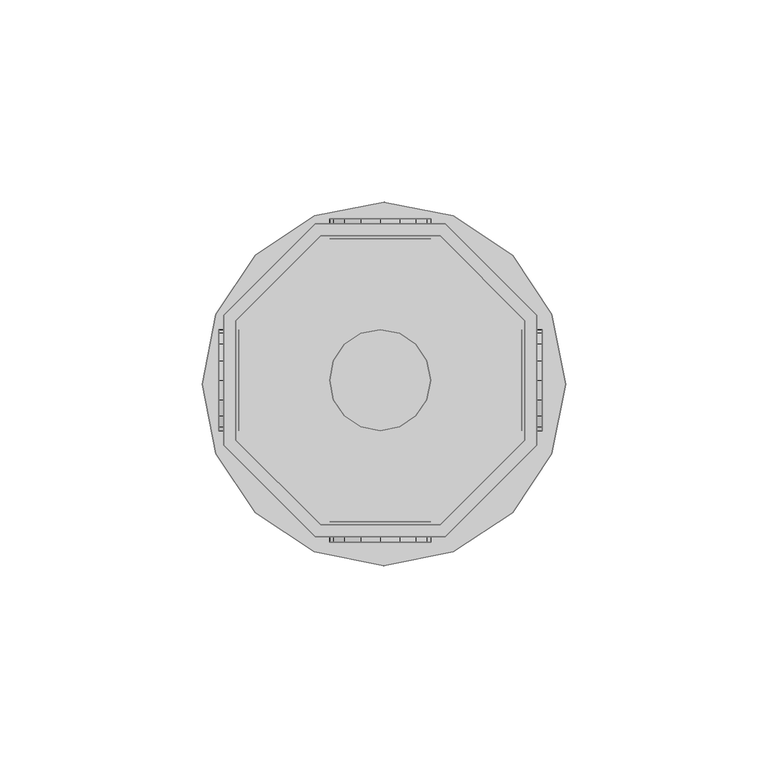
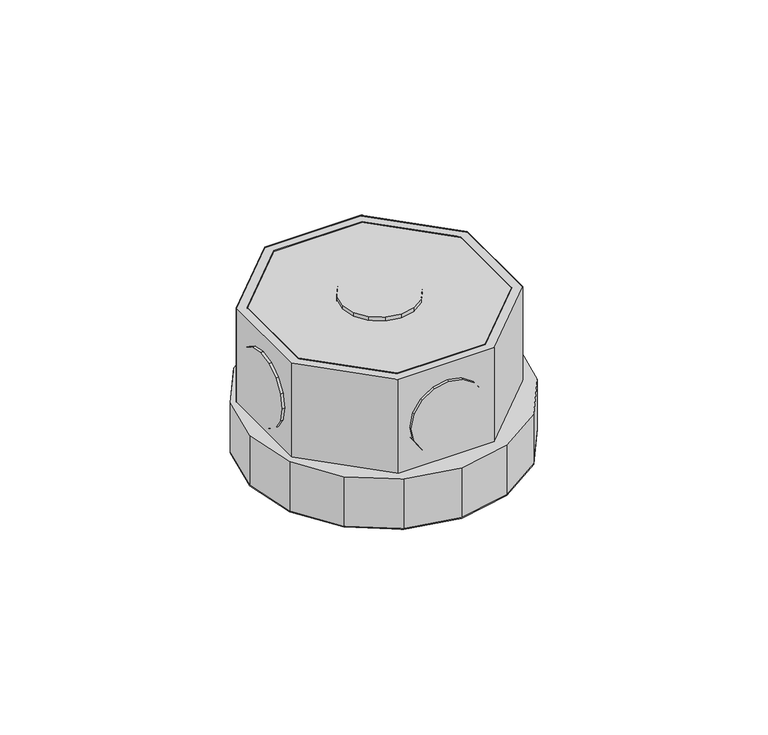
"""IFC4 building model written with IfcOpenShell, lengths in millimetres: light fixture geometry,  213824 :  213824."""

from ifc_helpers import new_model, si_unit, origin, place, context, project, spatial, triangles, source, transform, mapped, element, save


def light_fixture_e9a86b62(model_context):
    return source(origin(), model_context, "Body", "Tessellation", [
        triangles([(9614.9997391, 23945.4988586, 2924.5999741), (9585.3998016, 23945.4988586, 2975.400071), (9585.3998016, 23945.4988586, 2924.5999741), (9614.9997391, 23945.4988586, 2975.400071), (9616.2002472, 23871.0010803, 2924.5999741), (9584.099881, 23871.0010803, 2975.400071), (9584.099881, 23871.0010803, 2924.5999741), (9616.2002472, 23871.0010803, 2975.400071), (9564.3999207, 23924.5001404, 2975.400071), (9564.3999207, 23924.5001404, 2924.5999741), (9638.9000244, 23893.6996948, 2924.5999741), (9638.9000244, 23893.6996948, 2975.400071), (9564.3999207, 23894.8996216, 2975.400071), (9564.3999207, 23894.8996216, 2924.5999741), (9638.9000244, 23925.800061, 2924.5999741), (9638.9000244, 23925.800061, 2975.400071), (9585.3998016, 23874.0008972, 2975.400071), (9585.3998016, 23874.0008972, 2924.5999741), (9616.2002472, 23948.501001, 2924.5999741), (9616.2002472, 23948.501001, 2975.400071), (9614.9997391, 23874.0008972, 2924.5999741), (9614.9997391, 23874.0008972, 2975.400071), (9584.099881, 23948.501001, 2975.400071), (9584.099881, 23948.501001, 2924.5999741), (9635.9002075, 23894.8996216, 2924.5999741), (9635.9002075, 23894.8996216, 2975.400071), (9561.4001038, 23925.800061, 2975.400071), (9561.4001038, 23925.800061, 2924.5999741), (9561.4001038, 23893.6996948, 2975.400071), (9635.9002075, 23924.5001404, 2975.400071), (9635.9002075, 23924.5001404, 2924.5999741), (9561.4001038, 23893.6996948, 2924.5999741), (9564.3999207, 23894.8996216, 2972.3999634), (9585.3998016, 23874.0008972, 2972.3999634), (9614.9997391, 23874.0008972, 2972.3999634), (9635.9002075, 23894.8996216, 2972.3999634), (9635.9002075, 23924.5001404, 2972.3999634), (9614.9997391, 23945.4988586, 2972.3999634), (9585.3998016, 23945.4988586, 2972.3999634), (9564.3999207, 23924.5001404, 2972.3999634), (9561.4001038, 23925.800061, 2942.4000504), (9584.099881, 23948.501001, 2942.4000504), (9616.2002472, 23948.501001, 2942.4000504), (9638.9000244, 23925.800061, 2942.4000504), (9638.9000244, 23893.6996948, 2942.4000504), (9616.2002472, 23871.0010803, 2942.4000504), (9584.099881, 23871.0010803, 2942.4000504), (9561.4001038, 23893.6996948, 2942.4000504), (9583.7998993, 23867.2989807, 2942.4000504), (9559.5002197, 23891.599823, 2942.4000504), (9569.200209, 23877.0007141, 2942.4000504), (9556.0998459, 23908.8010986, 2942.4000504), (9559.5002197, 23926.1000427, 2942.4000504), (9569.200209, 23940.6991516, 2942.4000504), (9583.7998993, 23950.400885, 2942.4000504), (9601.1000061, 23953.8006775, 2942.4000504), (9618.300119, 23950.400885, 2942.4000504), (9642.5997986, 23926.1000427, 2942.4000504), (9632.8998093, 23940.6991516, 2942.4000504), (9601.1000061, 23863.7991943, 2942.4000504), (9618.300119, 23867.2989807, 2942.4000504), (9632.8998093, 23877.0007141, 2942.4000504), (9642.5997986, 23891.599823, 2942.4000504), (9646.1001663, 23908.8010986, 2942.4000504), (9559.5002197, 23891.599823, 2924.5999741), (9583.7998993, 23867.2989807, 2924.5999741), (9569.200209, 23877.0007141, 2924.5999741), (9556.0998459, 23908.8010986, 2924.5999741), (9559.5002197, 23926.1000427, 2924.5999741), (9569.200209, 23940.6991516, 2924.5999741), (9583.7998993, 23950.400885, 2924.5999741), (9601.1000061, 23953.8006775, 2924.5999741), (9618.300119, 23950.400885, 2924.5999741), (9642.5997986, 23926.1000427, 2924.5999741), (9632.8998093, 23940.6991516, 2924.5999741), (9601.1000061, 23863.7991943, 2924.5999741), (9618.300119, 23867.2989807, 2924.5999741), (9632.8998093, 23877.0007141, 2924.5999741), (9642.5997986, 23891.599823, 2924.5999741), (9646.1001663, 23908.8010986, 2924.5999741), (9588.6001877, 23949.7009277, 2952.6000092), (9595.3997726, 23949.7009277, 2945.9001274), (9591.3000229, 23949.7009277, 2948.5999626), (9587.7002426, 23949.7009277, 2957.4000069), (9600.200061, 23949.7009277, 2944.8998978), (9588.6001877, 23949.7009277, 2962.2000046), (9604.9997681, 23949.7009277, 2945.9001274), (9591.3000229, 23949.7009277, 2966.2000511), (9609.0001053, 23949.7009277, 2948.5999626), (9595.3997726, 23949.7009277, 2968.8998863), (9611.6999405, 23949.7009277, 2952.6000092), (9600.200061, 23949.7009277, 2969.900116), (9612.6998795, 23949.7009277, 2957.4000069), (9604.9997681, 23949.7009277, 2968.8998863), (9611.6999405, 23949.7009277, 2962.2000046), (9609.0001053, 23949.7009277, 2966.2000511), (9595.3997726, 23944.6989075, 2945.9001274), (9588.6001877, 23944.6989075, 2952.6000092), (9591.3000229, 23944.6989075, 2948.5999626), (9600.200061, 23944.6989075, 2944.8998978), (9587.7002426, 23944.6989075, 2957.4000069), (9604.9997681, 23944.6989075, 2945.9001274), (9588.6001877, 23944.6989075, 2962.2000046), (9609.0001053, 23944.6989075, 2948.5999626), (9591.3000229, 23944.6989075, 2966.2000511), (9595.3997726, 23944.6989075, 2968.8998863), (9611.6999405, 23944.6989075, 2952.6000092), (9600.200061, 23944.6989075, 2969.900116), (9612.6998795, 23944.6989075, 2957.4000069), (9604.9997681, 23944.6989075, 2968.8998863), (9611.6999405, 23944.6989075, 2962.2000046), (9609.0001053, 23944.6989075, 2966.2000511), (9588.6001877, 23874.7008545, 2952.6000092), (9595.3997726, 23874.7008545, 2945.9001274), (9591.3000229, 23874.7008545, 2948.5999626), (9587.7002426, 23874.7008545, 2957.4000069), (9600.200061, 23874.7008545, 2944.8998978), (9588.6001877, 23874.7008545, 2962.2000046), (9604.9997681, 23874.7008545, 2945.9001274), (9591.3000229, 23874.7008545, 2966.2000511), (9609.0001053, 23874.7008545, 2948.5999626), (9595.3997726, 23874.7008545, 2968.8998863), (9611.6999405, 23874.7008545, 2952.6000092), (9600.200061, 23874.7008545, 2969.900116), (9612.6998795, 23874.7008545, 2957.4000069), (9604.9997681, 23874.7008545, 2968.8998863), (9611.6999405, 23874.7008545, 2962.2000046), (9609.0001053, 23874.7008545, 2966.2000511), (9595.3997726, 23869.7011597, 2945.9001274), (9588.6001877, 23869.7011597, 2952.6000092), (9591.3000229, 23869.7011597, 2948.5999626), (9600.200061, 23869.7011597, 2944.8998978), (9587.7002426, 23869.7011597, 2957.4000069), (9604.9997681, 23869.7011597, 2945.9001274), (9588.6001877, 23869.7011597, 2962.2000046), (9609.0001053, 23869.7011597, 2948.5999626), (9591.3000229, 23869.7011597, 2966.2000511), (9595.3997726, 23869.7011597, 2968.8998863), (9611.6999405, 23869.7011597, 2952.6000092), (9600.200061, 23869.7011597, 2969.900116), (9612.6998795, 23869.7011597, 2957.4000069), (9604.9997681, 23869.7011597, 2968.8998863), (9611.6999405, 23869.7011597, 2962.2000046), (9609.0001053, 23869.7011597, 2966.2000511), (9565.1998718, 23904.8990112, 2945.9001274), (9565.1998718, 23898.1994202, 2952.6000092), (9565.1998718, 23900.8992554, 2948.5999626), (9565.1998718, 23909.7010437, 2944.8998978), (9565.1998718, 23897.1994812, 2957.4000069), (9565.1998718, 23914.5007507, 2945.9001274), (9565.1998718, 23898.1994202, 2962.2000046), (9565.1998718, 23918.6005005, 2948.5999626), (9565.1998718, 23900.8992554, 2966.2000511), (9565.1998718, 23904.8990112, 2968.8998863), (9565.1998718, 23921.3003357, 2952.6000092), (9565.1998718, 23909.7010437, 2969.900116), (9565.1998718, 23922.2002808, 2957.4000069), (9565.1998718, 23914.5007507, 2968.8998863), (9565.1998718, 23921.3003357, 2962.2000046), (9565.1998718, 23918.6005005, 2966.2000511), (9560.200177, 23898.1994202, 2952.6000092), (9560.200177, 23904.8990112, 2945.9001274), (9560.200177, 23900.8992554, 2948.5999626), (9560.200177, 23897.1994812, 2957.4000069), (9560.200177, 23909.7010437, 2944.8998978), (9560.200177, 23898.1994202, 2962.2000046), (9560.200177, 23914.5007507, 2945.9001274), (9560.200177, 23900.8992554, 2966.2000511), (9560.200177, 23918.6005005, 2948.5999626), (9560.200177, 23904.8990112, 2968.8998863), (9560.200177, 23921.3003357, 2952.6000092), (9560.200177, 23909.7010437, 2969.900116), (9560.200177, 23922.2002808, 2957.4000069), (9560.200177, 23914.5007507, 2968.8998863), (9560.200177, 23921.3003357, 2962.2000046), (9560.200177, 23918.6005005, 2966.2000511), (9640.1999451, 23904.8990112, 2945.9001274), (9640.1999451, 23898.1994202, 2952.6000092), (9640.1999451, 23900.8992554, 2948.5999626), (9640.1999451, 23909.7010437, 2944.8998978), (9640.1999451, 23897.1994812, 2957.4000069), (9640.1999451, 23914.5007507, 2945.9001274), (9640.1999451, 23898.1994202, 2962.2000046), (9640.1999451, 23918.6005005, 2948.5999626), (9640.1999451, 23900.8992554, 2966.2000511), (9640.1999451, 23904.8990112, 2968.8998863), (9640.1999451, 23921.3003357, 2952.6000092), (9640.1999451, 23909.7010437, 2969.900116), (9640.1999451, 23922.2002808, 2957.4000069), (9640.1999451, 23914.5007507, 2968.8998863), (9640.1999451, 23921.3003357, 2962.2000046), (9640.1999451, 23918.6005005, 2966.2000511), (9635.2002502, 23898.1994202, 2952.6000092), (9635.2002502, 23904.8990112, 2945.9001274), (9635.2002502, 23900.8992554, 2948.5999626), (9635.2002502, 23897.1994812, 2957.4000069), (9635.2002502, 23909.7010437, 2944.8998978), (9635.2002502, 23898.1994202, 2962.2000046), (9635.2002502, 23914.5007507, 2945.9001274), (9635.2002502, 23900.8992554, 2966.2000511), (9635.2002502, 23918.6005005, 2948.5999626), (9635.2002502, 23904.8990112, 2968.8998863), (9635.2002502, 23921.3003357, 2952.6000092), (9635.2002502, 23909.7010437, 2969.900116), (9635.2002502, 23922.2002808, 2957.4000069), (9635.2002502, 23914.5007507, 2968.8998863), (9635.2002502, 23921.3003357, 2962.2000046), (9635.2002502, 23918.6005005, 2966.2000511), (9595.3997726, 23898.1994202, 2976.9999733), (9588.6001877, 23904.8990112, 2976.9999733), (9591.3000229, 23900.8992554, 2976.9999733), (9587.7002426, 23909.7010437, 2976.9999733), (9600.200061, 23897.1994812, 2976.9999733), (9588.6001877, 23914.5007507, 2976.9999733), (9604.9997681, 23898.1994202, 2976.9999733), (9591.3000229, 23918.6005005, 2976.9999733), (9609.0001053, 23900.8992554, 2976.9999733), (9595.3997726, 23921.3003357, 2976.9999733), (9611.6999405, 23904.8990112, 2976.9999733), (9600.200061, 23922.2002808, 2976.9999733), (9612.6998795, 23909.7010437, 2976.9999733), (9604.9997681, 23921.3003357, 2976.9999733), (9611.6999405, 23914.5007507, 2976.9999733), (9609.0001053, 23918.6005005, 2976.9999733), (9588.6001877, 23904.8990112, 2971.9999878), (9595.3997726, 23898.1994202, 2971.9999878), (9591.3000229, 23900.8992554, 2971.9999878), (9587.7002426, 23909.7010437, 2971.9999878), (9600.200061, 23897.1994812, 2971.9999878), (9588.6001877, 23914.5007507, 2971.9999878), (9604.9997681, 23898.1994202, 2971.9999878), (9591.3000229, 23918.6005005, 2971.9999878), (9609.0001053, 23900.8992554, 2971.9999878), (9595.3997726, 23921.3003357, 2971.9999878), (9611.6999405, 23904.8990112, 2971.9999878), (9600.200061, 23922.2002808, 2971.9999878), (9612.6998795, 23909.7010437, 2971.9999878), (9604.9997681, 23921.3003357, 2971.9999878), (9611.6999405, 23914.5007507, 2971.9999878), (9609.0001053, 23918.6005005, 2971.9999878)], [[1, 2, 3], [2, 1, 4], [5, 6, 7], [6, 5, 8], [3, 9, 10], [9, 3, 2], [11, 8, 5], [8, 11, 12], [10, 13, 14], [13, 10, 9], [15, 12, 11], [12, 15, 16], [14, 17, 18], [17, 14, 13], [19, 16, 15], [16, 19, 20], [17, 21, 18], [21, 17, 22], [23, 19, 24], [19, 23, 20], [22, 25, 21], [25, 22, 26], [27, 24, 28], [24, 27, 23], [6, 13, 29], [29, 13, 27], [27, 13, 9], [27, 9, 23], [23, 9, 2], [23, 2, 4], [23, 4, 20], [20, 4, 30], [8, 17, 6], [6, 17, 13], [17, 8, 22], [12, 22, 8], [22, 12, 26], [30, 26, 12], [16, 30, 12], [20, 30, 16], [30, 1, 31], [1, 30, 4], [6, 32, 7], [32, 6, 29], [32, 14, 7], [28, 14, 32], [14, 28, 10], [24, 10, 28], [10, 24, 3], [1, 3, 24], [19, 1, 24], [31, 1, 19], [7, 18, 5], [14, 18, 7], [5, 18, 21], [5, 21, 11], [11, 21, 25], [11, 25, 31], [11, 31, 15], [15, 31, 19], [26, 31, 25], [31, 26, 30], [29, 28, 32], [28, 29, 27], [17, 33, 34], [33, 17, 13], [35, 17, 34], [17, 35, 22], [36, 22, 35], [22, 36, 26], [37, 26, 36], [26, 37, 30], [38, 30, 37], [30, 38, 4], [2, 38, 39], [38, 2, 4], [17, 9, 13], [9, 17, 22], [9, 22, 2], [2, 22, 26], [2, 26, 4], [4, 26, 30], [13, 40, 33], [40, 13, 9], [40, 34, 33], [35, 34, 40], [35, 40, 39], [35, 39, 36], [36, 39, 38], [36, 38, 37], [9, 39, 40], [39, 9, 2], [24, 41, 28], [41, 24, 42], [19, 42, 24], [42, 19, 43], [44, 19, 15], [19, 44, 43], [45, 15, 11], [15, 45, 44], [46, 11, 5], [11, 46, 45], [47, 5, 7], [5, 47, 46], [32, 47, 7], [47, 32, 48], [28, 48, 32], [48, 28, 41], [49, 50, 51], [48, 50, 49], [50, 48, 52], [41, 52, 48], [52, 41, 53], [53, 41, 54], [42, 54, 41], [54, 42, 55], [55, 42, 43], [55, 43, 56], [56, 43, 57], [57, 43, 44], [57, 44, 58], [57, 58, 59], [47, 49, 60], [49, 47, 48], [47, 60, 46], [61, 46, 60], [46, 61, 62], [46, 62, 45], [45, 62, 63], [44, 45, 63], [44, 63, 64], [44, 64, 58], [65, 66, 67], [66, 65, 32], [68, 32, 65], [32, 68, 28], [28, 68, 69], [70, 28, 69], [28, 70, 24], [71, 24, 70], [19, 24, 71], [19, 71, 72], [73, 19, 72], [19, 73, 15], [74, 15, 73], [74, 73, 75], [76, 66, 7], [32, 7, 66], [5, 76, 7], [76, 5, 77], [77, 5, 78], [11, 78, 5], [78, 11, 79], [79, 11, 15], [79, 15, 80], [80, 15, 74], [57, 75, 73], [75, 57, 59], [56, 73, 72], [73, 56, 57], [55, 72, 71], [72, 55, 56], [54, 71, 70], [71, 54, 55], [53, 70, 69], [70, 53, 54], [52, 69, 68], [69, 52, 53], [50, 68, 65], [68, 50, 52], [51, 65, 67], [65, 51, 50], [66, 51, 67], [51, 66, 49], [76, 49, 66], [49, 76, 60], [77, 60, 76], [60, 77, 61], [78, 61, 77], [61, 78, 62], [79, 62, 78], [62, 79, 63], [80, 63, 79], [63, 80, 64], [75, 58, 74], [58, 75, 59], [74, 64, 80], [64, 74, 58], [81, 82, 83], [82, 81, 84], [85, 82, 84], [85, 84, 86], [87, 85, 86], [87, 86, 88], [87, 88, 89], [89, 88, 90], [89, 90, 91], [91, 90, 92], [91, 92, 93], [93, 92, 94], [93, 94, 95], [95, 94, 96], [97, 98, 99], [98, 97, 100], [101, 98, 100], [101, 100, 102], [103, 101, 102], [103, 102, 104], [103, 104, 105], [105, 104, 106], [106, 104, 107], [106, 107, 108], [108, 107, 109], [108, 109, 110], [110, 109, 111], [110, 111, 112], [87, 104, 102], [104, 87, 89], [85, 102, 100], [102, 85, 87], [82, 100, 97], [100, 82, 85], [83, 97, 99], [97, 83, 82], [98, 83, 99], [83, 98, 81], [101, 81, 98], [81, 101, 84], [103, 84, 101], [84, 103, 86], [105, 86, 103], [86, 105, 88], [106, 88, 105], [88, 106, 90], [108, 90, 106], [90, 108, 92], [110, 92, 108], [92, 110, 94], [112, 94, 110], [94, 112, 96], [95, 112, 111], [112, 95, 96], [93, 111, 109], [111, 93, 95], [89, 107, 104], [107, 89, 91], [91, 109, 107], [109, 91, 93], [113, 114, 115], [114, 113, 116], [117, 114, 116], [117, 116, 118], [119, 117, 118], [119, 118, 120], [119, 120, 121], [121, 120, 122], [121, 122, 123], [123, 122, 124], [123, 124, 125], [125, 124, 126], [125, 126, 127], [127, 126, 128], [129, 130, 131], [130, 129, 132], [133, 130, 132], [133, 132, 134], [135, 133, 134], [135, 134, 136], [135, 136, 137], [137, 136, 138], [138, 136, 139], [138, 139, 140], [140, 139, 141], [140, 141, 142], [142, 141, 143], [142, 143, 144], [119, 136, 134], [136, 119, 121], [117, 134, 132], [134, 117, 119], [114, 132, 129], [132, 114, 117], [115, 129, 131], [129, 115, 114], [130, 115, 131], [115, 130, 113], [133, 113, 130], [113, 133, 116], [135, 116, 133], [116, 135, 118], [137, 118, 135], [118, 137, 120], [138, 120, 137], [120, 138, 122], [140, 122, 138], [122, 140, 124], [142, 124, 140], [124, 142, 126], [144, 126, 142], [126, 144, 128], [127, 144, 143], [144, 127, 128], [125, 143, 141], [143, 125, 127], [121, 139, 136], [139, 121, 123], [123, 141, 139], [141, 123, 125], [145, 146, 147], [146, 145, 148], [149, 146, 148], [149, 148, 150], [151, 149, 150], [151, 150, 152], [151, 152, 153], [153, 152, 154], [154, 152, 155], [154, 155, 156], [156, 155, 157], [156, 157, 158], [158, 157, 159], [158, 159, 160], [161, 162, 163], [162, 161, 164], [165, 162, 164], [165, 164, 166], [167, 165, 166], [167, 166, 168], [169, 167, 168], [169, 168, 170], [169, 170, 171], [171, 170, 172], [171, 172, 173], [173, 172, 174], [173, 174, 175], [175, 174, 176], [158, 176, 174], [176, 158, 160], [156, 174, 172], [174, 156, 158], [154, 172, 170], [172, 154, 156], [153, 170, 168], [170, 153, 154], [151, 168, 166], [168, 151, 153], [149, 166, 164], [166, 149, 151], [146, 164, 161], [164, 146, 149], [147, 161, 163], [161, 147, 146], [162, 147, 163], [147, 162, 145], [165, 145, 162], [145, 165, 148], [167, 148, 165], [148, 167, 150], [169, 150, 167], [150, 169, 152], [171, 152, 169], [152, 171, 155], [173, 155, 171], [155, 173, 157], [176, 159, 175], [159, 176, 160], [175, 157, 173], [157, 175, 159], [177, 178, 179], [178, 177, 180], [181, 178, 180], [181, 180, 182], [183, 181, 182], [183, 182, 184], [183, 184, 185], [185, 184, 186], [186, 184, 187], [186, 187, 188], [188, 187, 189], [188, 189, 190], [190, 189, 191], [190, 191, 192], [193, 194, 195], [194, 193, 196], [197, 194, 196], [197, 196, 198], [199, 197, 198], [199, 198, 200], [201, 199, 200], [201, 200, 202], [201, 202, 203], [203, 202, 204], [203, 204, 205], [205, 204, 206], [205, 206, 207], [207, 206, 208], [190, 208, 206], [208, 190, 192], [188, 206, 204], [206, 188, 190], [186, 204, 202], [204, 186, 188], [185, 202, 200], [202, 185, 186], [183, 200, 198], [200, 183, 185], [181, 198, 196], [198, 181, 183], [178, 196, 193], [196, 178, 181], [179, 193, 195], [193, 179, 178], [194, 179, 195], [179, 194, 177], [197, 177, 194], [177, 197, 180], [199, 180, 197], [180, 199, 182], [201, 182, 199], [182, 201, 184], [203, 184, 201], [184, 203, 187], [205, 187, 203], [187, 205, 189], [208, 191, 207], [191, 208, 192], [207, 189, 205], [189, 207, 191], [209, 210, 211], [212, 210, 209], [212, 209, 213], [214, 212, 213], [214, 213, 215], [216, 214, 215], [216, 215, 217], [216, 217, 218], [218, 217, 219], [218, 219, 220], [220, 219, 221], [220, 221, 222], [222, 221, 223], [222, 223, 224], [225, 226, 227], [226, 225, 228], [229, 226, 228], [229, 228, 230], [231, 229, 230], [231, 230, 232], [231, 232, 233], [233, 232, 234], [233, 234, 235], [235, 234, 236], [235, 236, 237], [237, 236, 238], [237, 238, 239], [239, 238, 240], [222, 240, 238], [240, 222, 224], [220, 238, 236], [238, 220, 222], [218, 236, 234], [236, 218, 220], [216, 234, 232], [234, 216, 218], [214, 232, 230], [232, 214, 216], [212, 230, 228], [230, 212, 214], [210, 228, 225], [228, 210, 212], [211, 225, 227], [225, 211, 210], [226, 211, 227], [211, 226, 209], [229, 209, 226], [209, 229, 213], [231, 213, 229], [213, 231, 215], [233, 215, 231], [215, 233, 217], [235, 217, 233], [217, 235, 219], [237, 219, 235], [219, 237, 221], [240, 223, 239], [223, 240, 224], [239, 221, 237], [221, 239, 223]], closed=False),
    ])


if __name__ == "__main__":
    model = new_model("IFC4")
    model_context = context("Model", 3, world=origin())
    ifc_project = project(units=[si_unit("LENGTHUNIT", "METRE", prefix="MILLI")], contexts=[model_context])
    site = spatial("IfcSite", under=ifc_project)
    building = spatial("IfcBuilding", under=site)
    placement = place(None, origin())
    light_fixture_shape = light_fixture_e9a86b62(model_context)
    element("IfcLightFixture", 1, ObjectType=" 213824 :  213824", at=placement, inside=building, context=model_context, shape_type="MappedRepresentation", body=[
        mapped(light_fixture_shape, transform((0.0, 0.0, 0.0), x_axis=(1.0, 0.0, 0.0), y_axis=(0.0, 1.0, 0.0), z_axis=(0.0, 0.0, 1.0))),
    ])
    save(model, "model.ifc")
